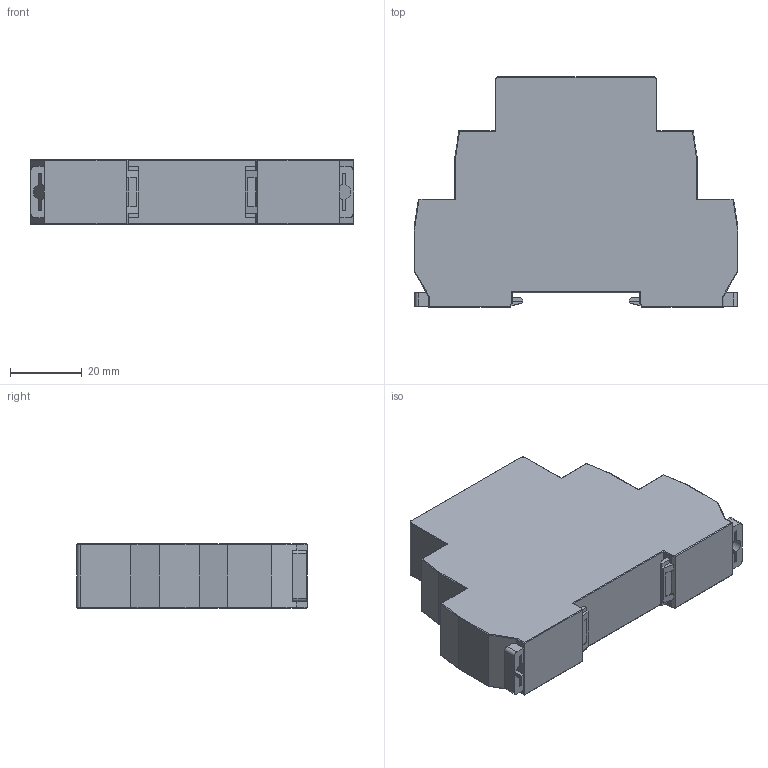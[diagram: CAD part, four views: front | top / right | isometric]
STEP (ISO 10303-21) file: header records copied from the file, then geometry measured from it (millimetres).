
FILE_DESCRIPTION (( 'STEP AP214' ), '1' );
FILE_NAME ('GEYA_GRV8_3D.STEP', '2023-11-02T11:07:33', ( '' ), ( '' ), 'SwSTEP 2.0', 'SolidWorks 2018', '' );
FILE_SCHEMA (( 'AUTOMOTIVE_DESIGN' ));
Length unit declared in the file: millimetre
Products named in the file (1): GEYA_GRV8_3D
Bounding box: 90 x 64 x 17.8 mm (x, y, z)
Volume: 79261.7 mm3; surface area: 14926.5 mm2
Topology: 1 solids, 1 shells, 160 faces, 418 edges, 260 vertices
Faces by surface type: plane 84, cylinder 72, torus 4
Entity records: 5433 total; most frequent: CARTESIAN_POINT 995, ORIENTED_EDGE 836, DIRECTION 740, EDGE_CURVE 418, LINE 314, VECTOR 314, VERTEX_POINT 260, AXIS2_PLACEMENT_3D 213
